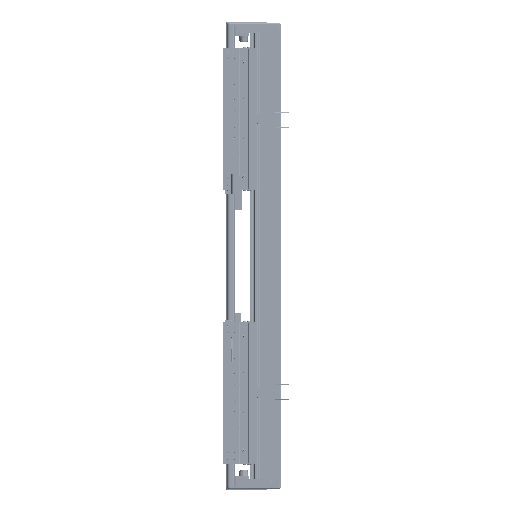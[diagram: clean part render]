
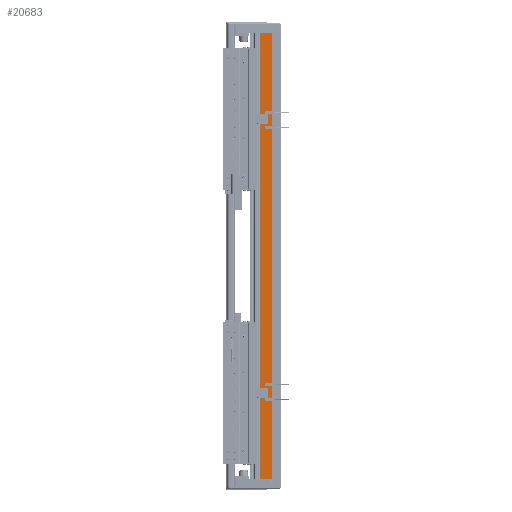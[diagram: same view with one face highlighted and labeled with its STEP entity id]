
A CAD part, left-side view. The second image highlights one B-rep face of the part: STEP entity #20683.
In plain terms, the highlighted planar face has unit normal (-1, 0, 0).
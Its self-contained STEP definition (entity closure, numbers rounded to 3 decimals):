
#648 = VECTOR ( 'NONE', #77911, 1000. ) ;
#11814 = LINE ( 'NONE', #31252, #92088 ) ;
#18476 = CARTESIAN_POINT ( 'NONE',  ( -97.5, 14.45, -390. ) ) ;
#19338 = ORIENTED_EDGE ( 'NONE', *, *, #115408, .T. ) ;
#20526 = LINE ( 'NONE', #100310, #648 ) ;
#20683 = ADVANCED_FACE ( 'NONE', ( #137903 ), #71433, .F. ) ;
#23391 = CARTESIAN_POINT ( 'NONE',  ( -97.5, 36.95, 390. ) ) ;
#25687 = VERTEX_POINT ( 'NONE', #28694 ) ;
#28694 = CARTESIAN_POINT ( 'NONE',  ( -97.5, 36.95, -390. ) ) ;
#29799 = DIRECTION ( 'NONE',  ( 0., -1., 0. ) ) ;
#30319 = EDGE_LOOP ( 'NONE', ( #111086, #34072, #42358, #19338 ) ) ;
#30519 = LINE ( 'NONE', #106624, #121288 ) ;
#31252 = CARTESIAN_POINT ( 'NONE',  ( -97.5, 36.95, 390. ) ) ;
#34072 = ORIENTED_EDGE ( 'NONE', *, *, #66009, .F. ) ;
#42358 = ORIENTED_EDGE ( 'NONE', *, *, #122936, .F. ) ;
#61252 = DIRECTION ( 'NONE',  ( 0., -1., 0. ) ) ;
#65576 = DIRECTION ( 'NONE',  ( 0., 0., -1. ) ) ;
#66009 = EDGE_CURVE ( 'NONE', #136000, #112414, #20526, .T. ) ;
#69841 = AXIS2_PLACEMENT_3D ( 'NONE', #137155, #104258, #82601 ) ;
#71433 = PLANE ( 'NONE',  #69841 ) ;
#77911 = DIRECTION ( 'NONE',  ( 0., 0., -1. ) ) ;
#82601 = DIRECTION ( 'NONE',  ( 0., 1., 0. ) ) ;
#92088 = VECTOR ( 'NONE', #65576, 1000. ) ;
#93341 = CARTESIAN_POINT ( 'NONE',  ( -97.5, 36.95, -390. ) ) ;
#100310 = CARTESIAN_POINT ( 'NONE',  ( -97.5, 14.45, 390. ) ) ;
#104258 = DIRECTION ( 'NONE',  ( 1., 0., 0. ) ) ;
#106624 = CARTESIAN_POINT ( 'NONE',  ( -97.5, 36.95, 390. ) ) ;
#110815 = VECTOR ( 'NONE', #61252, 1000. ) ;
#111086 = ORIENTED_EDGE ( 'NONE', *, *, #134056, .T. ) ;
#112414 = VERTEX_POINT ( 'NONE', #18476 ) ;
#115408 = EDGE_CURVE ( 'NONE', #129498, #25687, #11814, .T. ) ;
#121288 = VECTOR ( 'NONE', #29799, 1000. ) ;
#122936 = EDGE_CURVE ( 'NONE', #129498, #136000, #30519, .T. ) ;
#129498 = VERTEX_POINT ( 'NONE', #23391 ) ;
#134056 = EDGE_CURVE ( 'NONE', #25687, #112414, #138906, .T. ) ;
#136000 = VERTEX_POINT ( 'NONE', #142970 ) ;
#137155 = CARTESIAN_POINT ( 'NONE',  ( -97.5, 36.95, 390. ) ) ;
#137903 = FACE_OUTER_BOUND ( 'NONE', #30319, .T. ) ;
#138906 = LINE ( 'NONE', #93341, #110815 ) ;
#142970 = CARTESIAN_POINT ( 'NONE',  ( -97.5, 14.45, 390. ) ) ;
